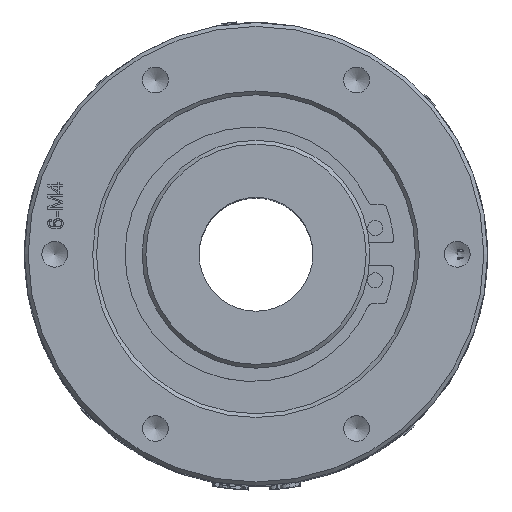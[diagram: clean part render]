
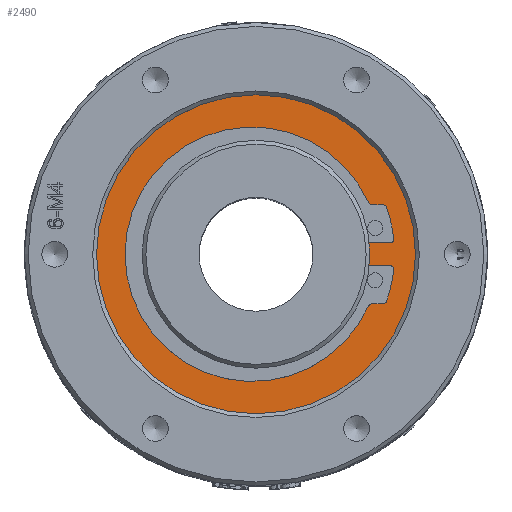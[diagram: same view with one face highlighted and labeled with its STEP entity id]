
A CAD part, top view. The second image highlights one B-rep face of the part: STEP entity #2490.
In plain terms, the highlighted planar face has unit normal (0, 0, 1).
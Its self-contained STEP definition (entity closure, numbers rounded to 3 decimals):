
#387=FACE_BOUND('',#6074,.T.);
#388=FACE_BOUND('',#6075,.T.);
#809=CIRCLE('',#26438,21.);
#888=CIRCLE('',#26606,14.);
#890=CIRCLE('',#26608,14.);
#891=CIRCLE('',#26610,0.5);
#892=CIRCLE('',#26611,0.5);
#893=CIRCLE('',#26612,0.5);
#894=CIRCLE('',#26613,18.75);
#895=CIRCLE('',#26614,0.5);
#896=CIRCLE('',#26615,0.7);
#897=CIRCLE('',#26616,16.75);
#898=CIRCLE('',#26617,0.7);
#899=CIRCLE('',#26618,0.5);
#900=CIRCLE('',#26619,18.75);
#901=CIRCLE('',#26620,0.5);
#2490=ADVANCED_FACE('',(#387,#388),#3454,.T.);
#3454=PLANE('',#26621);
#6074=EDGE_LOOP('',(#13369,#13370,#13371,#13372,#13373,#13374,#13375,#13376,
#13377,#13378,#13379,#13380,#13381,#13382,#13383,#13384,#13385));
#6075=EDGE_LOOP('',(#13386));
#7173=LINE('',#47054,#8290);
#7174=LINE('',#47060,#8291);
#7175=LINE('',#47068,#8292);
#7176=LINE('',#47076,#8293);
#8290=VECTOR('',#29635,1.);
#8291=VECTOR('',#29640,1.);
#8292=VECTOR('',#29647,1.);
#8293=VECTOR('',#29654,1.);
#13369=ORIENTED_EDGE('',*,*,#21592,.F.);
#13370=ORIENTED_EDGE('',*,*,#21593,.T.);
#13371=ORIENTED_EDGE('',*,*,#21587,.T.);
#13372=ORIENTED_EDGE('',*,*,#21591,.T.);
#13373=ORIENTED_EDGE('',*,*,#21594,.T.);
#13374=ORIENTED_EDGE('',*,*,#21595,.F.);
#13375=ORIENTED_EDGE('',*,*,#21596,.T.);
#13376=ORIENTED_EDGE('',*,*,#21597,.F.);
#13377=ORIENTED_EDGE('',*,*,#21598,.T.);
#13378=ORIENTED_EDGE('',*,*,#21599,.F.);
#13379=ORIENTED_EDGE('',*,*,#21600,.T.);
#13380=ORIENTED_EDGE('',*,*,#21601,.F.);
#13381=ORIENTED_EDGE('',*,*,#21602,.T.);
#13382=ORIENTED_EDGE('',*,*,#21603,.F.);
#13383=ORIENTED_EDGE('',*,*,#21604,.T.);
#13384=ORIENTED_EDGE('',*,*,#21605,.F.);
#13385=ORIENTED_EDGE('',*,*,#21606,.T.);
#13386=ORIENTED_EDGE('',*,*,#21339,.F.);
#17919=VERTEX_POINT('',#45795);
#18165=VERTEX_POINT('',#47044);
#18166=VERTEX_POINT('',#47045);
#18169=VERTEX_POINT('',#47051);
#18170=VERTEX_POINT('',#47055);
#18171=VERTEX_POINT('',#47056);
#18172=VERTEX_POINT('',#47059);
#18173=VERTEX_POINT('',#47061);
#18174=VERTEX_POINT('',#47063);
#18175=VERTEX_POINT('',#47065);
#18176=VERTEX_POINT('',#47067);
#18177=VERTEX_POINT('',#47069);
#18178=VERTEX_POINT('',#47071);
#18179=VERTEX_POINT('',#47073);
#18180=VERTEX_POINT('',#47075);
#18181=VERTEX_POINT('',#47077);
#18182=VERTEX_POINT('',#47079);
#18183=VERTEX_POINT('',#47081);
#21339=EDGE_CURVE('',#17919,#17919,#809,.T.);
#21587=EDGE_CURVE('',#18165,#18166,#888,.T.);
#21591=EDGE_CURVE('',#18166,#18169,#890,.T.);
#21592=EDGE_CURVE('',#18170,#18171,#7173,.T.);
#21593=EDGE_CURVE('',#18170,#18165,#891,.T.);
#21594=EDGE_CURVE('',#18169,#18172,#892,.T.);
#21595=EDGE_CURVE('',#18173,#18172,#7174,.T.);
#21596=EDGE_CURVE('',#18173,#18174,#893,.T.);
#21597=EDGE_CURVE('',#18175,#18174,#894,.T.);
#21598=EDGE_CURVE('',#18175,#18176,#895,.T.);
#21599=EDGE_CURVE('',#18177,#18176,#7175,.T.);
#21600=EDGE_CURVE('',#18177,#18178,#896,.T.);
#21601=EDGE_CURVE('',#18179,#18178,#897,.T.);
#21602=EDGE_CURVE('',#18179,#18180,#898,.T.);
#21603=EDGE_CURVE('',#18181,#18180,#7176,.T.);
#21604=EDGE_CURVE('',#18181,#18182,#899,.T.);
#21605=EDGE_CURVE('',#18183,#18182,#900,.T.);
#21606=EDGE_CURVE('',#18183,#18171,#901,.T.);
#26438=AXIS2_PLACEMENT_3D('',#45794,#29220,#29221);
#26606=AXIS2_PLACEMENT_3D('',#47043,#29625,#29626);
#26608=AXIS2_PLACEMENT_3D('',#47052,#29631,#29632);
#26610=AXIS2_PLACEMENT_3D('',#47057,#29636,#29637);
#26611=AXIS2_PLACEMENT_3D('',#47058,#29638,#29639);
#26612=AXIS2_PLACEMENT_3D('',#47062,#29641,#29642);
#26613=AXIS2_PLACEMENT_3D('',#47064,#29643,#29644);
#26614=AXIS2_PLACEMENT_3D('',#47066,#29645,#29646);
#26615=AXIS2_PLACEMENT_3D('',#47070,#29648,#29649);
#26616=AXIS2_PLACEMENT_3D('',#47072,#29650,#29651);
#26617=AXIS2_PLACEMENT_3D('',#47074,#29652,#29653);
#26618=AXIS2_PLACEMENT_3D('',#47078,#29655,#29656);
#26619=AXIS2_PLACEMENT_3D('',#47080,#29657,#29658);
#26620=AXIS2_PLACEMENT_3D('',#47082,#29659,#29660);
#26621=AXIS2_PLACEMENT_3D('',#47083,#29661,#29662);
#29220=DIRECTION('',(0.,0.,-1.));
#29221=DIRECTION('',(1.,0.,0.));
#29625=DIRECTION('',(0.,0.,-1.));
#29626=DIRECTION('',(1.,0.,0.));
#29631=DIRECTION('',(0.,0.,-1.));
#29632=DIRECTION('',(1.,0.,0.));
#29635=DIRECTION('',(1.,0.,0.));
#29636=DIRECTION('',(0.,0.,-1.));
#29637=DIRECTION('',(-1.,0.,0.));
#29638=DIRECTION('',(0.,0.,-1.));
#29639=DIRECTION('',(-1.,0.,0.));
#29640=DIRECTION('',(-1.,0.,0.));
#29641=DIRECTION('',(0.,0.,-1.));
#29642=DIRECTION('',(-1.,0.,0.));
#29643=DIRECTION('',(0.,0.,1.));
#29644=DIRECTION('',(-1.,0.,0.));
#29645=DIRECTION('',(0.,0.,-1.));
#29646=DIRECTION('',(-1.,0.,0.));
#29647=DIRECTION('',(1.,0.,0.));
#29648=DIRECTION('',(0.,0.,1.));
#29649=DIRECTION('',(-1.,0.,0.));
#29650=DIRECTION('',(0.,0.,1.));
#29651=DIRECTION('',(1.,0.,0.));
#29652=DIRECTION('',(0.,0.,1.));
#29653=DIRECTION('',(-1.,0.,0.));
#29654=DIRECTION('',(-1.,0.,0.));
#29655=DIRECTION('',(0.,0.,-1.));
#29656=DIRECTION('',(-1.,0.,0.));
#29657=DIRECTION('',(0.,0.,1.));
#29658=DIRECTION('',(-1.,0.,0.));
#29659=DIRECTION('',(0.,0.,-1.));
#29660=DIRECTION('',(-1.,0.,0.));
#29661=DIRECTION('',(0.,0.,1.));
#29662=DIRECTION('',(-1.,0.,0.));
#45794=CARTESIAN_POINT('',(0.,0.,64.6));
#45795=CARTESIAN_POINT('',(21.,0.,64.6));
#47043=CARTESIAN_POINT('',(0.,0.,64.6));
#47044=CARTESIAN_POINT('',(13.866,1.931,64.6));
#47045=CARTESIAN_POINT('',(14.,0.,64.6));
#47051=CARTESIAN_POINT('',(13.866,-1.931,64.6));
#47052=CARTESIAN_POINT('',(0.,0.,64.6));
#47054=CARTESIAN_POINT('',(-0.5,1.5,64.6));
#47055=CARTESIAN_POINT('',(14.361,1.5,64.6));
#47056=CARTESIAN_POINT('',(17.64,1.5,64.6));
#47057=CARTESIAN_POINT('',(14.361,2.,64.6));
#47058=CARTESIAN_POINT('',(14.361,-2.,64.6));
#47059=CARTESIAN_POINT('',(14.361,-1.5,64.6));
#47060=CARTESIAN_POINT('',(-0.5,-1.5,64.6));
#47061=CARTESIAN_POINT('',(17.64,-1.5,64.6));
#47062=CARTESIAN_POINT('',(17.64,-2.,64.6));
#47063=CARTESIAN_POINT('',(18.137,-2.055,64.6));
#47064=CARTESIAN_POINT('',(-0.5,0.,64.6));
#47065=CARTESIAN_POINT('',(17.208,-6.164,64.6));
#47066=CARTESIAN_POINT('',(16.736,-6.,64.6));
#47067=CARTESIAN_POINT('',(16.736,-6.5,64.6));
#47068=CARTESIAN_POINT('',(-0.5,-6.5,64.6));
#47069=CARTESIAN_POINT('',(15.395,-6.5,64.6));
#47070=CARTESIAN_POINT('',(15.395,-7.2,64.6));
#47071=CARTESIAN_POINT('',(14.758,-6.911,64.6));
#47072=CARTESIAN_POINT('',(-0.5,0.,64.6));
#47073=CARTESIAN_POINT('',(14.758,6.911,64.6));
#47074=CARTESIAN_POINT('',(15.395,7.2,64.6));
#47075=CARTESIAN_POINT('',(15.395,6.5,64.6));
#47076=CARTESIAN_POINT('',(-0.5,6.5,64.6));
#47077=CARTESIAN_POINT('',(16.736,6.5,64.6));
#47078=CARTESIAN_POINT('',(16.736,6.,64.6));
#47079=CARTESIAN_POINT('',(17.208,6.164,64.6));
#47080=CARTESIAN_POINT('',(-0.5,0.,64.6));
#47081=CARTESIAN_POINT('',(18.137,2.055,64.6));
#47082=CARTESIAN_POINT('',(17.64,2.,64.6));
#47083=CARTESIAN_POINT('',(0.,0.,64.6));
